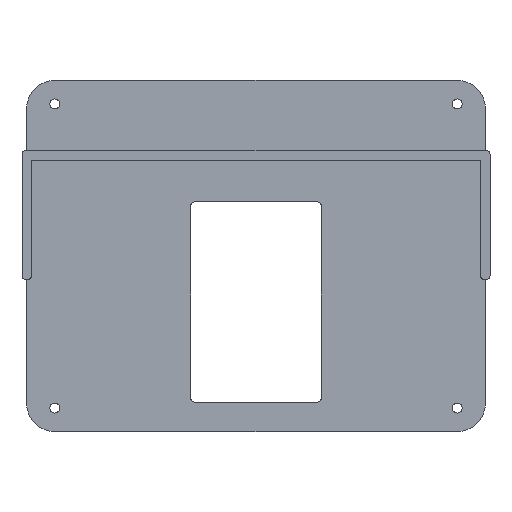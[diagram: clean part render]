
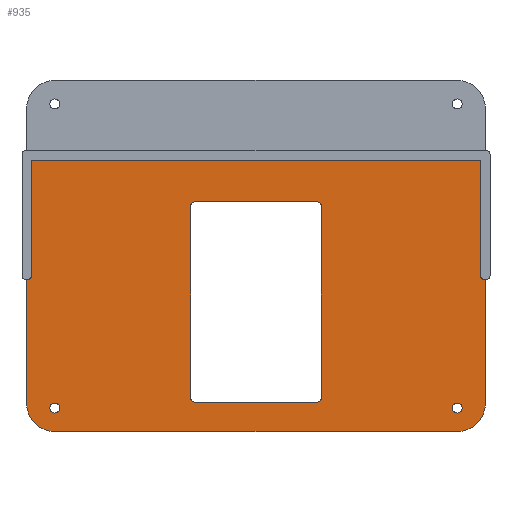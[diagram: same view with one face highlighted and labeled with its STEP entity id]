
A CAD part, front view. The second image highlights one B-rep face of the part: STEP entity #935.
In plain terms, the highlighted planar face has unit normal (0, -1, 0).
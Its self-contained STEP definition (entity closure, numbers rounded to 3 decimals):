
#21 = EDGE_CURVE('',#22,#24,#26,.T.);
#22 = VERTEX_POINT('',#23);
#23 = CARTESIAN_POINT('',(-98.,-260.2,192.));
#24 = VERTEX_POINT('',#25);
#25 = CARTESIAN_POINT('',(-98.,-260.2,245.));
#26 = LINE('',#27,#28);
#27 = CARTESIAN_POINT('',(-98.,-260.2,192.));
#28 = VECTOR('',#29,1.);
#29 = DIRECTION('',(0.,0.,1.));
#71 = VERTEX_POINT('',#72);
#72 = CARTESIAN_POINT('',(-86.,-260.2,180.));
#78 = EDGE_CURVE('',#71,#22,#79,.T.);
#79 = CIRCLE('',#80,12.);
#80 = AXIS2_PLACEMENT_3D('',#81,#82,#83);
#81 = CARTESIAN_POINT('',(-86.,-260.2,192.));
#82 = DIRECTION('',(0.,1.,0.));
#83 = DIRECTION('',(0.,-0.,1.));
#95 = EDGE_CURVE('',#71,#96,#98,.T.);
#96 = VERTEX_POINT('',#97);
#97 = CARTESIAN_POINT('',(86.,-260.2,180.));
#98 = LINE('',#99,#100);
#99 = CARTESIAN_POINT('',(-86.,-260.2,180.));
#100 = VECTOR('',#101,1.);
#101 = DIRECTION('',(1.,0.,-0.));
#135 = VERTEX_POINT('',#136);
#136 = CARTESIAN_POINT('',(98.,-260.2,192.));
#142 = EDGE_CURVE('',#135,#96,#143,.T.);
#143 = CIRCLE('',#144,12.);
#144 = AXIS2_PLACEMENT_3D('',#145,#146,#147);
#145 = CARTESIAN_POINT('',(86.,-260.2,192.));
#146 = DIRECTION('',(0.,1.,0.));
#147 = DIRECTION('',(0.,-0.,1.));
#158 = EDGE_CURVE('',#135,#159,#161,.T.);
#159 = VERTEX_POINT('',#160);
#160 = CARTESIAN_POINT('',(98.,-260.2,245.));
#161 = LINE('',#162,#163);
#162 = CARTESIAN_POINT('',(98.,-260.2,192.));
#163 = VECTOR('',#164,1.);
#164 = DIRECTION('',(0.,0.,1.));
#192 = VERTEX_POINT('',#193);
#193 = CARTESIAN_POINT('',(97.5,-260.2,245.));
#222 = EDGE_CURVE('',#159,#192,#223,.T.);
#223 = LINE('',#224,#225);
#224 = CARTESIAN_POINT('',(48.75,-260.2,245.));
#225 = VECTOR('',#226,1.);
#226 = DIRECTION('',(-1.,0.,0.));
#796 = VERTEX_POINT('',#797);
#797 = CARTESIAN_POINT('',(-97.5,-260.2,245.));
#803 = EDGE_CURVE('',#796,#24,#804,.T.);
#804 = LINE('',#805,#806);
#805 = CARTESIAN_POINT('',(-49.25,-260.2,245.));
#806 = VECTOR('',#807,1.);
#807 = DIRECTION('',(-1.,0.,0.));
#824 = EDGE_CURVE('',#825,#796,#827,.T.);
#825 = VERTEX_POINT('',#826);
#826 = CARTESIAN_POINT('',(-96.,-260.2,246.5));
#827 = CIRCLE('',#828,1.5);
#828 = AXIS2_PLACEMENT_3D('',#829,#830,#831);
#829 = CARTESIAN_POINT('',(-97.5,-260.2,246.5));
#830 = DIRECTION('',(0.,1.,0.));
#831 = DIRECTION('',(0.,-0.,1.));
#851 = EDGE_CURVE('',#825,#852,#854,.T.);
#852 = VERTEX_POINT('',#853);
#853 = CARTESIAN_POINT('',(-96.,-260.2,296.));
#854 = LINE('',#855,#856);
#855 = CARTESIAN_POINT('',(-96.,-260.2,250.75));
#856 = VECTOR('',#857,1.);
#857 = DIRECTION('',(0.,-0.,1.));
#876 = VERTEX_POINT('',#877);
#877 = CARTESIAN_POINT('',(96.,-260.2,296.));
#883 = EDGE_CURVE('',#876,#852,#884,.T.);
#884 = LINE('',#885,#886);
#885 = CARTESIAN_POINT('',(-49.25,-260.2,296.));
#886 = VECTOR('',#887,1.);
#887 = DIRECTION('',(-1.,0.,0.));
#899 = VERTEX_POINT('',#900);
#900 = CARTESIAN_POINT('',(96.,-260.2,246.5));
#906 = EDGE_CURVE('',#899,#876,#907,.T.);
#907 = LINE('',#908,#909);
#908 = CARTESIAN_POINT('',(96.,-260.2,250.75));
#909 = VECTOR('',#910,1.);
#910 = DIRECTION('',(0.,-0.,1.));
#921 = EDGE_CURVE('',#192,#899,#922,.T.);
#922 = CIRCLE('',#923,1.5);
#923 = AXIS2_PLACEMENT_3D('',#924,#925,#926);
#924 = CARTESIAN_POINT('',(97.5,-260.2,246.5));
#925 = DIRECTION('',(0.,1.,0.));
#926 = DIRECTION('',(0.,-0.,1.));
#935 = ADVANCED_FACE('',(#936,#950,#961,#1031),#1042,.T.);
#936 = FACE_BOUND('',#937,.T.);
#937 = EDGE_LOOP('',(#938,#939,#940,#941,#942,#943,#944,#945,#946,#947,
    #948,#949));
#938 = ORIENTED_EDGE('',*,*,#78,.F.);
#939 = ORIENTED_EDGE('',*,*,#95,.T.);
#940 = ORIENTED_EDGE('',*,*,#142,.F.);
#941 = ORIENTED_EDGE('',*,*,#158,.T.);
#942 = ORIENTED_EDGE('',*,*,#222,.T.);
#943 = ORIENTED_EDGE('',*,*,#921,.T.);
#944 = ORIENTED_EDGE('',*,*,#906,.T.);
#945 = ORIENTED_EDGE('',*,*,#883,.T.);
#946 = ORIENTED_EDGE('',*,*,#851,.F.);
#947 = ORIENTED_EDGE('',*,*,#824,.T.);
#948 = ORIENTED_EDGE('',*,*,#803,.T.);
#949 = ORIENTED_EDGE('',*,*,#21,.F.);
#950 = FACE_BOUND('',#951,.T.);
#951 = EDGE_LOOP('',(#952));
#952 = ORIENTED_EDGE('',*,*,#953,.T.);
#953 = EDGE_CURVE('',#954,#954,#956,.T.);
#954 = VERTEX_POINT('',#955);
#955 = CARTESIAN_POINT('',(-86.,-260.2,192.1));
#956 = CIRCLE('',#957,2.1);
#957 = AXIS2_PLACEMENT_3D('',#958,#959,#960);
#958 = CARTESIAN_POINT('',(-86.,-260.2,190.));
#959 = DIRECTION('',(0.,1.,0.));
#960 = DIRECTION('',(0.,-0.,1.));
#961 = FACE_BOUND('',#962,.T.);
#962 = EDGE_LOOP('',(#963,#973,#982,#990,#999,#1007,#1016,#1024));
#963 = ORIENTED_EDGE('',*,*,#964,.F.);
#964 = EDGE_CURVE('',#965,#967,#969,.T.);
#965 = VERTEX_POINT('',#966);
#966 = CARTESIAN_POINT('',(25.97,-260.2,278.126));
#967 = VERTEX_POINT('',#968);
#968 = CARTESIAN_POINT('',(-25.97,-260.2,278.126));
#969 = LINE('',#970,#971);
#970 = CARTESIAN_POINT('',(-12.985,-260.2,278.126));
#971 = VECTOR('',#972,1.);
#972 = DIRECTION('',(-1.,0.,0.));
#973 = ORIENTED_EDGE('',*,*,#974,.T.);
#974 = EDGE_CURVE('',#965,#975,#977,.T.);
#975 = VERTEX_POINT('',#976);
#976 = CARTESIAN_POINT('',(27.97,-260.2,276.126));
#977 = CIRCLE('',#978,2.);
#978 = AXIS2_PLACEMENT_3D('',#979,#980,#981);
#979 = CARTESIAN_POINT('',(25.97,-260.2,276.126));
#980 = DIRECTION('',(0.,1.,0.));
#981 = DIRECTION('',(0.,-0.,1.));
#982 = ORIENTED_EDGE('',*,*,#983,.F.);
#983 = EDGE_CURVE('',#984,#975,#986,.T.);
#984 = VERTEX_POINT('',#985);
#985 = CARTESIAN_POINT('',(27.97,-260.2,194.526));
#986 = LINE('',#987,#988);
#987 = CARTESIAN_POINT('',(27.97,-260.2,224.763));
#988 = VECTOR('',#989,1.);
#989 = DIRECTION('',(0.,-0.,1.));
#990 = ORIENTED_EDGE('',*,*,#991,.T.);
#991 = EDGE_CURVE('',#984,#992,#994,.T.);
#992 = VERTEX_POINT('',#993);
#993 = CARTESIAN_POINT('',(25.97,-260.2,192.526));
#994 = CIRCLE('',#995,2.);
#995 = AXIS2_PLACEMENT_3D('',#996,#997,#998);
#996 = CARTESIAN_POINT('',(25.97,-260.2,194.526));
#997 = DIRECTION('',(0.,1.,0.));
#998 = DIRECTION('',(0.,-0.,1.));
#999 = ORIENTED_EDGE('',*,*,#1000,.T.);
#1000 = EDGE_CURVE('',#992,#1001,#1003,.T.);
#1001 = VERTEX_POINT('',#1002);
#1002 = CARTESIAN_POINT('',(-25.97,-260.2,192.526));
#1003 = LINE('',#1004,#1005);
#1004 = CARTESIAN_POINT('',(-12.985,-260.2,192.526));
#1005 = VECTOR('',#1006,1.);
#1006 = DIRECTION('',(-1.,0.,0.));
#1007 = ORIENTED_EDGE('',*,*,#1008,.T.);
#1008 = EDGE_CURVE('',#1001,#1009,#1011,.T.);
#1009 = VERTEX_POINT('',#1010);
#1010 = CARTESIAN_POINT('',(-27.97,-260.2,194.526));
#1011 = CIRCLE('',#1012,2.);
#1012 = AXIS2_PLACEMENT_3D('',#1013,#1014,#1015);
#1013 = CARTESIAN_POINT('',(-25.97,-260.2,194.526));
#1014 = DIRECTION('',(0.,1.,0.));
#1015 = DIRECTION('',(0.,-0.,1.));
#1016 = ORIENTED_EDGE('',*,*,#1017,.T.);
#1017 = EDGE_CURVE('',#1009,#1018,#1020,.T.);
#1018 = VERTEX_POINT('',#1019);
#1019 = CARTESIAN_POINT('',(-27.97,-260.2,276.126));
#1020 = LINE('',#1021,#1022);
#1021 = CARTESIAN_POINT('',(-27.97,-260.2,224.763));
#1022 = VECTOR('',#1023,1.);
#1023 = DIRECTION('',(0.,-0.,1.));
#1024 = ORIENTED_EDGE('',*,*,#1025,.T.);
#1025 = EDGE_CURVE('',#1018,#967,#1026,.T.);
#1026 = CIRCLE('',#1027,2.);
#1027 = AXIS2_PLACEMENT_3D('',#1028,#1029,#1030);
#1028 = CARTESIAN_POINT('',(-25.97,-260.2,276.126));
#1029 = DIRECTION('',(0.,1.,0.));
#1030 = DIRECTION('',(0.,-0.,1.));
#1031 = FACE_BOUND('',#1032,.T.);
#1032 = EDGE_LOOP('',(#1033));
#1033 = ORIENTED_EDGE('',*,*,#1034,.T.);
#1034 = EDGE_CURVE('',#1035,#1035,#1037,.T.);
#1035 = VERTEX_POINT('',#1036);
#1036 = CARTESIAN_POINT('',(86.,-260.2,192.1));
#1037 = CIRCLE('',#1038,2.1);
#1038 = AXIS2_PLACEMENT_3D('',#1039,#1040,#1041);
#1039 = CARTESIAN_POINT('',(86.,-260.2,190.));
#1040 = DIRECTION('',(0.,1.,0.));
#1041 = DIRECTION('',(0.,-0.,1.));
#1042 = PLANE('',#1043);
#1043 = AXIS2_PLACEMENT_3D('',#1044,#1045,#1046);
#1044 = CARTESIAN_POINT('',(0.,-260.2,255.));
#1045 = DIRECTION('',(-0.,-1.,-0.));
#1046 = DIRECTION('',(0.,0.,-1.));
